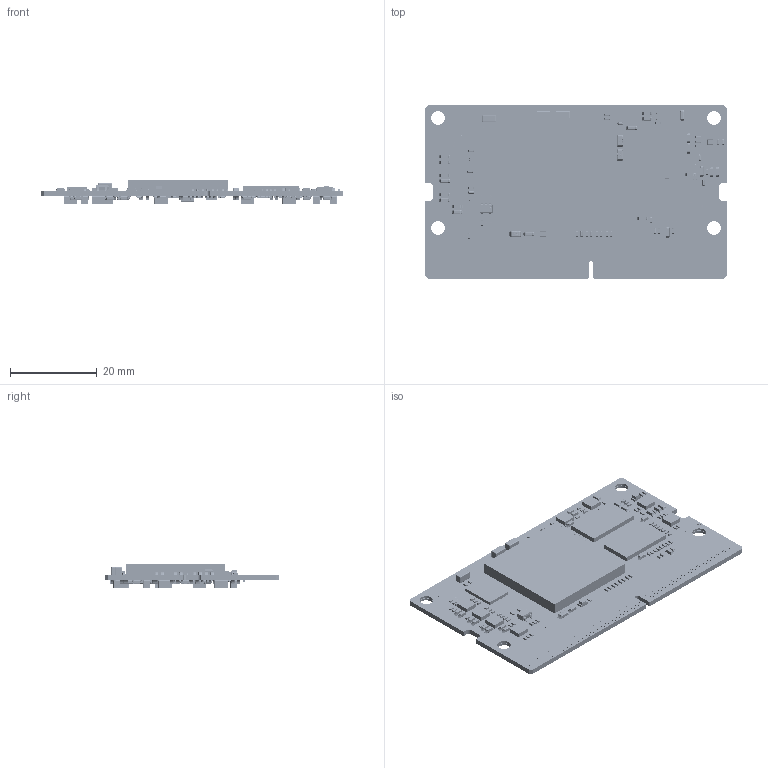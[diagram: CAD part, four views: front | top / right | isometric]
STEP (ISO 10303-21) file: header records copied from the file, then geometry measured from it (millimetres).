
FILE_DESCRIPTION((''),'2;1');
FILE_NAME('MYC-J7A100T-I_V10-230811_ASM','2024-06-03T16:48:34',('89233'),(''),'CREO PARAMETRIC BY PTC INC, 2023073','CREO PARAMETRIC BY PTC INC, 2023073','');
FILE_SCHEMA(('AUTOMOTIVE_DESIGN { 1 0 10303 214 1 1 1 1 }'));
Products named in the file (104): BOARD; R0402-46893_6; R0402-408477_ASM_6_ASM; R0402_ASM; NONE-58127_AF0_6; 1_11__8; NONE-58129_6; NONE-58130_AF0_6; C0402-1_AF0_ASM_8_ASM; C0402_ASM_9_ASM; C0402_ASM; NONE-58131_6_2; PART6_ASSEM3-1-SOLID2_8_2; USER_LIBRARY-0603_CAP-1-SOLID1_; CUT-EXTRUDE1-58134_6_2; 0603_1; C0603-46898_ASM_6_ASM_2_ASM; C0603_ASM; CYLINDER_STEP_6; 858032240_STEP_ASM_6_ASM; EXTRUDED_3_STEP_6; 894460672_STEP_ASM_6_ASM; EXTRUDED_2_STEP_6; 858031856_STEP_ASM_6_ASM; CYLINDER_2_STEP_6; 857275360_STEP_ASM_6_ASM; EXTRUDED_STEP_6; 858032368_STEP_ASM_6_ASM; DESIGNATOR14_STEP_ASM_6_ASM; BOARD_STEP_6; WSON-8_6X8MM_STEP_ASM_6_ASM; WSON-8_6X8MM-1_ASM_6_ASM; WSON8-1_27-W_ASM_7_ASM; WSON8-1_27-6_1X8_1H-H0_8_ASM; X6-3_25X2_55-H0_8; TEST0_8-SMD_1; TEST0_8-SMD_ASM; NONE-58140_6; NONE-58141_6; NONE-58142_6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
Assembly tree (404 placements, depth 10):
  MYC-J7A100T-I_V10-230811_ASM
    MYC-J7A100T-I_V10-230811_1_ASM
      BOARD
      COMPONENTS_ASM
        R0402_ASM  x95
          R0402-408477_ASM_6_ASM
            R0402-46893_6
        C0402_ASM  x99
          C0402_ASM_9_ASM
            C0402-1_AF0_ASM_8_ASM
              NONE-58127_AF0_6
              1_11__8
              NONE-58129_6
              NONE-58130_AF0_6
        C0603_ASM  x53
          C0603-46898_ASM_6_ASM_2_ASM
            NONE-58131_6_2
            PART6_ASSEM3-1-SOLID2_8_2
            USER_LIBRARY-0603_CAP-1-SOLID1_
            CUT-EXTRUDE1-58134_6_2
            0603_1
        WSON8-1_27-6_1X8_1H-H0_8_ASM
          WSON8-1_27-W_ASM_7_ASM
            WSON-8_6X8MM-1_ASM_6_ASM
              WSON-8_6X8MM_STEP_ASM_6_ASM
                DESIGNATOR14_STEP_ASM_6_ASM
                  858032240_STEP_ASM_6_ASM  x8
                  894460672_STEP_ASM_6_ASM
                  858031856_STEP_ASM_6_ASM  x8
                  857275360_STEP_ASM_6_ASM
                  858032368_STEP_ASM_6_ASM
                BOARD_STEP_6
        X6-3_25X2_55-H0_8
        TEST0_8-SMD_ASM  x2
          TEST0_8-SMD_1
        SOT-23_ASM
          SOT-23-3_ASM_6_ASM
            NONE-58140_6
            NONE-58141_6
            NONE-58142_6
            NONE-58143_6
        FB0603_ASM  x4
          FB0603-408469_ASM_6_ASM
            FB0603-46885_ASM_6_ASM
              PIN1-58094_6
              PIN2-58095_6
              CHIP-58096_6
        LED0603_ASM
          LED0603-46892_ASM_6_ASM_7_ASM
            4_6_7
            2_6_8
            5_6_7
            3_6_7
            NONE-58116_6_7
        LED0805_ASM  x2
          LED0805_ASM_7_ASM
            SW3DPS-LED805R-1_7
        C0805_ASM  x11
          C0805-38575_ASM_4_ASM
            _1-45825_4
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Bounding box: 69.6 x 40 x 5.6 mm (x, y, z)
Volume: 4985.3 mm3; surface area: 15362.4 mm2
Topology: 922 solids, 933 shells, 19506 faces, 62095 edges, 48058 vertices
Faces by surface type: plane 11602, cylinder 4474, bspline 1441, sphere 1222, torus 654, extrusion 113
Entity records: 188365 total; most frequent: CARTESIAN_POINT 28876, DIRECTION 25001, PRESENTATION_STYLE_ASSIGNMENT 13531, STYLED_ITEM 13374, CURVE_STYLE 13269, ORIENTED_EDGE 11365, VECTOR 8868, LINE 8789
